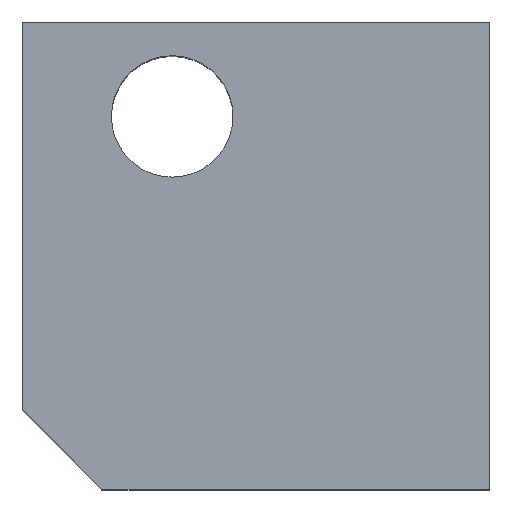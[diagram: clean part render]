
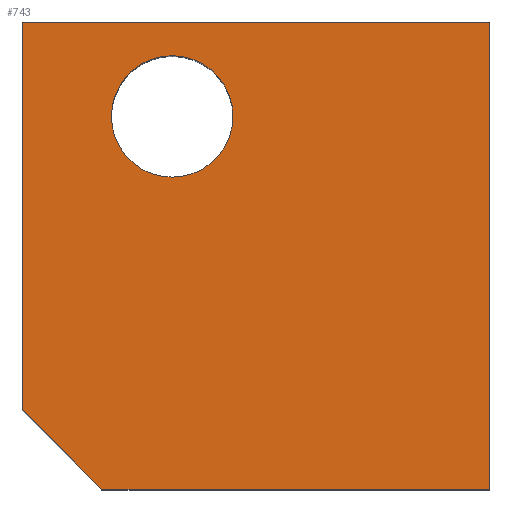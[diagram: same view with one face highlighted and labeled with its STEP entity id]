
A CAD part, top view. The second image highlights one B-rep face of the part: STEP entity #743.
In plain terms, the highlighted planar face has unit normal (0, 0, 1).
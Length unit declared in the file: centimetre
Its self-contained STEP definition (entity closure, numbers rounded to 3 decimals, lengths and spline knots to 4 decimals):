
#1 = ORIENTED_EDGE ( 'NONE', *, *, #336, .T. ) ;
#4 = ORIENTED_EDGE ( 'NONE', *, *, #375, .T. ) ;
#20 = LINE ( 'NONE', #324, #579 ) ;
#27 = VERTEX_POINT ( 'NONE', #197 ) ;
#36 = DIRECTION ( 'NONE',  ( 0., 0., 1. ) ) ;
#41 = DIRECTION ( 'NONE',  ( -1., 0., 0. ) ) ;
#50 = CIRCLE ( 'NONE', #489, 130.0513 ) ;
#71 = DIRECTION ( 'NONE',  ( 1., 0., 0. ) ) ;
#80 = CARTESIAN_POINT ( 'NONE',  ( 190.528, 797.9371, 1000. ) ) ;
#95 = CIRCLE ( 'NONE', #720, 130.0513 ) ;
#98 = CARTESIAN_POINT ( 'NONE',  ( 320.5792, 797.9371, 1000. ) ) ;
#99 = CARTESIAN_POINT ( 'NONE',  ( 0., 1000., 1000. ) ) ;
#122 = DIRECTION ( 'NONE',  ( 0., 0., -1. ) ) ;
#126 = VERTEX_POINT ( 'NONE', #244 ) ;
#144 = PLANE ( 'NONE',  #328 ) ;
#145 = ORIENTED_EDGE ( 'NONE', *, *, #334, .T. ) ;
#150 = VECTOR ( 'NONE', #215, 100. ) ;
#152 = FACE_BOUND ( 'NONE', #480, .T. ) ;
#192 = VECTOR ( 'NONE', #388, 100. ) ;
#197 = CARTESIAN_POINT ( 'NONE',  ( 0., 1000., 1000. ) ) ;
#202 = EDGE_LOOP ( 'NONE', ( #435, #145, #210, #4, #1 ) ) ;
#206 = CARTESIAN_POINT ( 'NONE',  ( 1000., 1000., 1000. ) ) ;
#210 = ORIENTED_EDGE ( 'NONE', *, *, #572, .T. ) ;
#215 = DIRECTION ( 'NONE',  ( 0., -1., 0. ) ) ;
#220 = VECTOR ( 'NONE', #266, 100. ) ;
#232 = ORIENTED_EDGE ( 'NONE', *, *, #275, .T. ) ;
#244 = CARTESIAN_POINT ( 'NONE',  ( 1000., 0., 1000. ) ) ;
#258 = CARTESIAN_POINT ( 'NONE',  ( 1000., 1000., 1000. ) ) ;
#266 = DIRECTION ( 'NONE',  ( -1., 0., 0. ) ) ;
#271 = CARTESIAN_POINT ( 'NONE',  ( 0., 0., 1000. ) ) ;
#275 = EDGE_CURVE ( 'NONE', #385, #432, #95, .T. ) ;
#324 = CARTESIAN_POINT ( 'NONE',  ( 85.136, 85.136, 1000. ) ) ;
#328 = AXIS2_PLACEMENT_3D ( 'NONE', #271, #36, #514 ) ;
#334 = EDGE_CURVE ( 'NONE', #501, #780, #20, .T. ) ;
#336 = EDGE_CURVE ( 'NONE', #362, #27, #516, .T. ) ;
#362 = VERTEX_POINT ( 'NONE', #258 ) ;
#375 = EDGE_CURVE ( 'NONE', #126, #362, #445, .T. ) ;
#385 = VERTEX_POINT ( 'NONE', #687 ) ;
#388 = DIRECTION ( 'NONE',  ( 0., 1., 0. ) ) ;
#419 = CARTESIAN_POINT ( 'NONE',  ( 320.5792, 797.9371, 1000. ) ) ;
#432 = VERTEX_POINT ( 'NONE', #80 ) ;
#435 = ORIENTED_EDGE ( 'NONE', *, *, #778, .T. ) ;
#436 = DIRECTION ( 'NONE',  ( -1., 0., 0. ) ) ;
#445 = LINE ( 'NONE', #206, #192 ) ;
#480 = EDGE_LOOP ( 'NONE', ( #686, #232 ) ) ;
#489 = AXIS2_PLACEMENT_3D ( 'NONE', #98, #585, #41 ) ;
#494 = CARTESIAN_POINT ( 'NONE',  ( 0., 0., 1000. ) ) ;
#501 = VERTEX_POINT ( 'NONE', #526 ) ;
#514 = DIRECTION ( 'NONE',  ( 1., 0., 0. ) ) ;
#516 = LINE ( 'NONE', #574, #220 ) ;
#525 = EDGE_CURVE ( 'NONE', #432, #385, #50, .T. ) ;
#526 = CARTESIAN_POINT ( 'NONE',  ( 0., 170.2719, 1000. ) ) ;
#572 = EDGE_CURVE ( 'NONE', #780, #126, #617, .T. ) ;
#574 = CARTESIAN_POINT ( 'NONE',  ( 0., 1000., 1000. ) ) ;
#579 = VECTOR ( 'NONE', #693, 100. ) ;
#580 = VECTOR ( 'NONE', #71, 100. ) ;
#585 = DIRECTION ( 'NONE',  ( 0., 0., -1. ) ) ;
#617 = LINE ( 'NONE', #494, #580 ) ;
#686 = ORIENTED_EDGE ( 'NONE', *, *, #525, .T. ) ;
#687 = CARTESIAN_POINT ( 'NONE',  ( 450.6305, 797.9371, 1000. ) ) ;
#693 = DIRECTION ( 'NONE',  ( 0.707, -0.707, 0. ) ) ;
#694 = FACE_OUTER_BOUND ( 'NONE', #202, .T. ) ;
#720 = AXIS2_PLACEMENT_3D ( 'NONE', #419, #122, #436 ) ;
#743 = ADVANCED_FACE ( 'NONE', ( #152, #694 ), #144, .T. ) ;
#764 = LINE ( 'NONE', #99, #150 ) ;
#769 = CARTESIAN_POINT ( 'NONE',  ( 170.2719, 0., 1000. ) ) ;
#778 = EDGE_CURVE ( 'NONE', #27, #501, #764, .T. ) ;
#780 = VERTEX_POINT ( 'NONE', #769 ) ;
